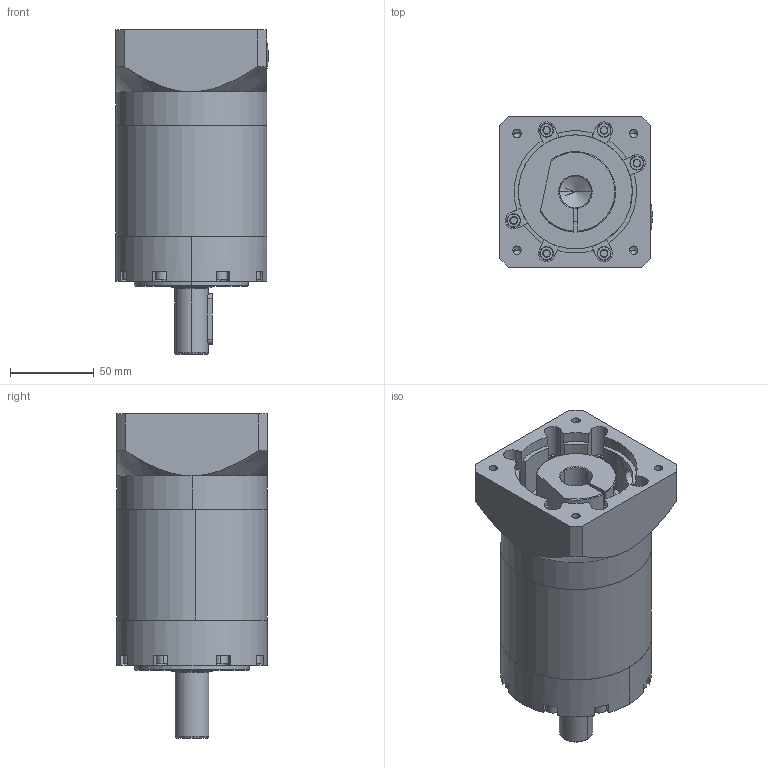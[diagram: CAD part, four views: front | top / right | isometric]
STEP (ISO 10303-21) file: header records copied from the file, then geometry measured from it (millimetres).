
FILE_DESCRIPTION (( 'STEP AP203' ), '1' );
FILE_NAME ('LSE90-(L2)-S2-P2-7090M5.STEP', '2024-11-14T08:56:17', ( '微软用户' ), ( '微软中国' ), 'SwSTEP 2.0', 'SolidWorks 2022', '' );
FILE_SCHEMA (( 'CONFIG_CONTROL_DESIGN' ));
Length unit declared in the file: millimetre
Products named in the file (1): LSE90-(L2)-S2-P2-7090M5
Bounding box: 90.78 x 90 x 193.5 mm (x, y, z)
Volume: 905317.2 mm3; surface area: 120927.4 mm2
Topology: 10 solids, 10 shells, 467 faces, 1079 edges, 667 vertices
Faces by surface type: plane 210, cylinder 157, cone 82, torus 18
Entity records: 13784 total; most frequent: CARTESIAN_POINT 2971, DIRECTION 2353, ORIENTED_EDGE 2114, EDGE_CURVE 1057, AXIS2_PLACEMENT_3D 900, VERTEX_POINT 667, LINE 553, VECTOR 553
